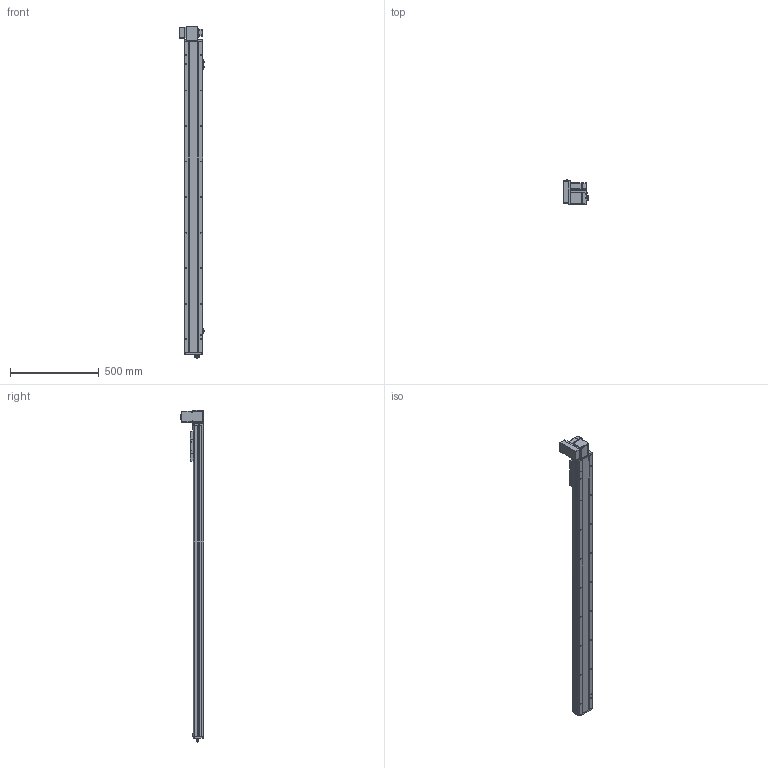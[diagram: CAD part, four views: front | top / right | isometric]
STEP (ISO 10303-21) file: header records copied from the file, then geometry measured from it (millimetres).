
FILE_DESCRIPTION (( 'STEP AP214' ), '1' );
FILE_NAME ('TPE10-L32-1500-LU-T10-C4.STEP', '2023-03-13T06:47:32', ( '' ), ( '' ), 'SwSTEP 2.0', 'SolidWorks 2020', '' );
FILE_SCHEMA (( 'AUTOMOTIVE_DESIGN' ));
Length unit declared in the file: millimetre
Products named in the file (15): 葩璃 TPE10-007 々湍釱MZ-169x88^TPE10-L32-LU-T10-C4; hexagon socket head cap screws gb_GB_FASTENER_SCREWS_HSHCS M3X6-N; 葩璃 TPE10 賑雄殤 TPE10^TPE10-L32-LU-T10-C4; 葩璃 侂狟100W^TPE10-L32-LU-T10-C4; hex nuts, style 1-grades ab gb_GB_FASTENER_NUT_SNAB1 M3-N; 葩璃 TPT10-L-009 萇儂啣^TPE10-L32-LU-T10-C4_100W; 葩璃 詩湍75^TPE10-L32-LU-T10-C4; 葩璃 TPE10-L-001 菁釱MZ-102A-01^TPE10-L32-LU-T10-C4; 葩璃 pm-t65-672^TPE10-L32-LU-T10-C4; 葩璃 TPE10-L-002 耜裔ZTMT-102B-04^TPE10-L32-LU-T10-C4; hexagon head bolts-full thread gb_GB_FASTENER_BOLT_STBAB A M5X16-N; TPE10-L32-1500-LU-T10-C4; 葩璃 TPF10 詩湍揤啣 TPF10 12^TPE10-L32-LU-T10-C4; 葩璃 PL8-02^TPE10-L32-LU-T10-C4; 葩璃 TPF10-L-008 耜醱啣^TPE10-L32-LU-T10-C4
Assembly tree (28 placements, depth 2):
  TPE10-L32-1500-LU-T10-C4
    葩璃 TPE10-L-001 菁釱MZ-102A-01^TPE10-L32-LU-T10-C4
    葩璃 TPE10-L-002 耜裔ZTMT-102B-04^TPE10-L32-LU-T10-C4  x2
    葩璃 詩湍75^TPE10-L32-LU-T10-C4
    葩璃 TPE10-007 々湍釱MZ-169x88^TPE10-L32-LU-T10-C4
    葩璃 TPF10-L-008 耜醱啣^TPE10-L32-LU-T10-C4
    葩璃 TPE10 賑雄殤 TPE10^TPE10-L32-LU-T10-C4
    葩璃 TPF10 詩湍揤啣 TPF10 12^TPE10-L32-LU-T10-C4  x2
    葩璃 TPT10-L-009 萇儂啣^TPE10-L32-LU-T10-C4_100W
    葩璃 pm-t65-672^TPE10-L32-LU-T10-C4  x3
    葩璃 PL8-02^TPE10-L32-LU-T10-C4
    葩璃 侂狟100W^TPE10-L32-LU-T10-C4
    hexagon socket head cap screws gb_GB_FASTENER_SCREWS_HSHCS M3X6-N  x6
    hex nuts, style 1-grades ab gb_GB_FASTENER_NUT_SNAB1 M3-N  x6
    hexagon head bolts-full thread gb_GB_FASTENER_BOLT_STBAB A M5X16-N
Bounding box: 146.2 x 134.65 x 1868.35 mm (x, y, z)
Volume: 5732485.6 mm3; surface area: 1460704.8 mm2
Topology: 36 solids, 36 shells, 1636 faces, 4166 edges, 2624 vertices
Faces by surface type: plane 899, cylinder 497, cone 188, torus 26, bspline 24, sphere 2
Entity records: 38264 total; most frequent: CARTESIAN_POINT 7953, DIRECTION 5996, ORIENTED_EDGE 5776, EDGE_CURVE 2888, AXIS2_PLACEMENT_3D 2117, VERTEX_POINT 1851, LINE 1762, VECTOR 1762
